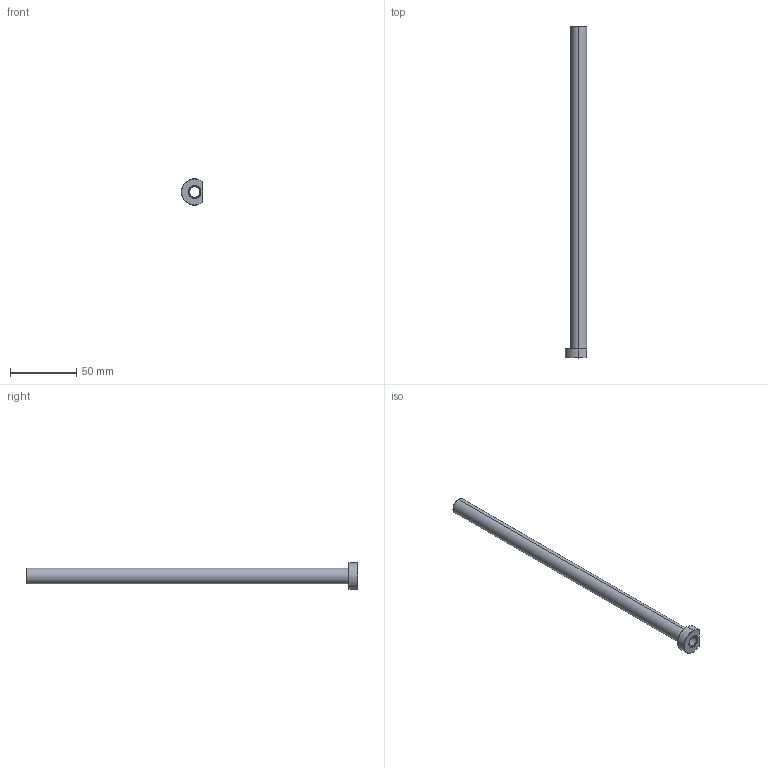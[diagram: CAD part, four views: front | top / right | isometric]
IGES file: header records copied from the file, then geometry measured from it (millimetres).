
Start section: SolidWorks IGES file using analytic representation for surfaces
Global section: file name: C:\Users\365admin\AppData\Local\Temp\InFlowConvert3DWorking\ESD08L250-K.igs; native system: SolidWorks 2019; preprocessor: SolidWorks 2019; author: 365admin; date: 220205.111343; units: millimetre
Bounding box: 16 x 250 x 20 mm (x, y, z)
Surface area: 16585.1 mm2 (no closed solid volume)
Topology: 0 solids, 0 shells, 26 faces, 294 edges, 294 vertices
Faces by surface type: revolution 19, bspline 7
